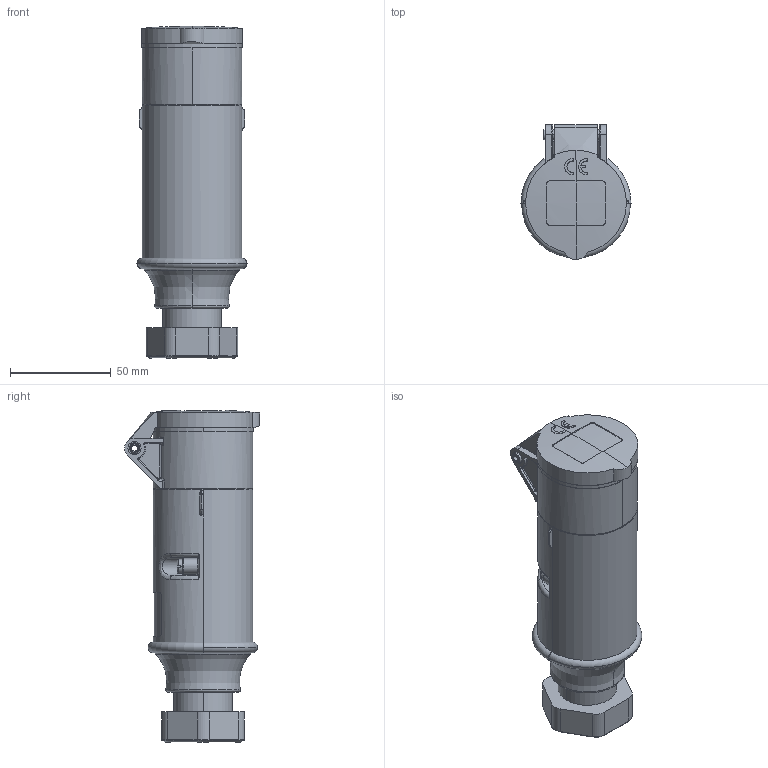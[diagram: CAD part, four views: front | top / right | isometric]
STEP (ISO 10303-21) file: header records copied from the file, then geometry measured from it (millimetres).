
FILE_DESCRIPTION((''),'2;1');
FILE_NAME('1115890_ASM_SW0001','2018-02-22T',('gisse'),('MENNEKES'),'PRO/ENGINEER BY PARAMETRIC TECHNOLOGY CORPORATION, 2015440','PRO/ENGINEER BY PARAMETRIC TECHNOLOGY CORPORATION, 2015440','');
FILE_SCHEMA(('AUTOMOTIVE_DESIGN { 1 0 10303 214 1 1 1 1 }'));
Length unit declared in the file: millimetre
Products named in the file (1): 1115890_ASM_SW0001
Bounding box: 54.6 x 66.99 x 164.7 mm (x, y, z)
Volume: 284782.1 mm3; surface area: 33759.1 mm2
Topology: 1 solids, 1 shells, 402 faces, 1027 edges, 636 vertices
Faces by surface type: cylinder 115, plane 111, bspline 81, torus 60, cone 23, sphere 12
Entity records: 24259 total; most frequent: CARTESIAN_POINT 6957, ORIENTED_EDGE 2042, DIRECTION 1772, PRESENTATION_STYLE_ASSIGNMENT 1415, STYLED_ITEM 1022, CURVE_STYLE 1021, EDGE_CURVE 1021, FILL_AREA_STYLE_COLOUR 785
